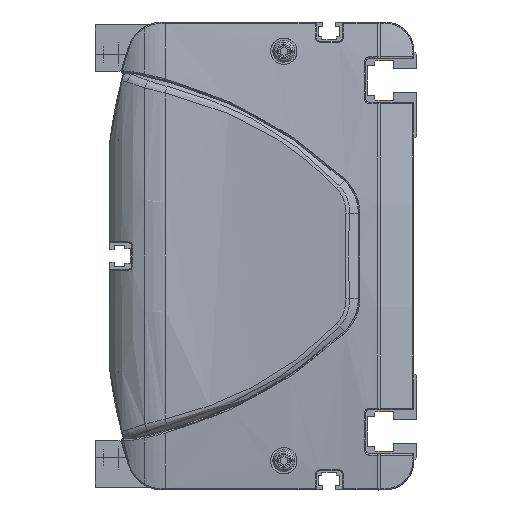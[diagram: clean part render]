
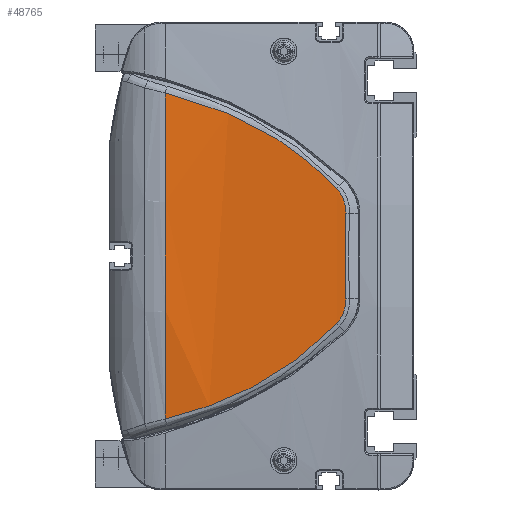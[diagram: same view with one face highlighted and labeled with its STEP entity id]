
A CAD part, left-side view. The second image highlights one B-rep face of the part: STEP entity #48765.
In plain terms, the highlighted cylindrical face has radius 600 mm (diameter 1200 mm), a partial arc.
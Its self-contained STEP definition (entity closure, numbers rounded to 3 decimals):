
#43795=CARTESIAN_POINT('',(-12.406,86.,
55.736));
#43796=CARTESIAN_POINT('',(-12.529,80.495,
54.41));
#43797=CARTESIAN_POINT('',(-12.828,69.636,
51.114));
#43798=CARTESIAN_POINT('',(-13.389,54.079,
44.179));
#43799=CARTESIAN_POINT('',(-14.01,39.709,
34.979));
#43800=CARTESIAN_POINT('',(-14.395,31.353,
27.243));
#43801=CARTESIAN_POINT('',(-14.555,27.451,
23.113));
#43803=CARTESIAN_POINT('',(-14.555,27.451,
23.113));
#43804=CARTESIAN_POINT('',(-14.641,25.336,
20.875));
#43805=CARTESIAN_POINT('',(-14.745,24.202,
17.745));
#43806=CARTESIAN_POINT('',(-14.821,24.351,
14.67));
#43808=CARTESIAN_POINT('',(-14.821,24.351,
14.67));
#43809=CARTESIAN_POINT('',(-14.9,24.51,
11.413));
#43810=CARTESIAN_POINT('',(-15.007,24.721,
4.895));
#43811=CARTESIAN_POINT('',(-15.007,24.721,
-4.895));
#43812=CARTESIAN_POINT('',(-14.9,24.51,
-11.413));
#43813=CARTESIAN_POINT('',(-14.821,24.351,
-14.67));
#43815=CARTESIAN_POINT('',(-14.821,24.351,
-14.67));
#43816=CARTESIAN_POINT('',(-14.745,24.202,
-17.745));
#43817=CARTESIAN_POINT('',(-14.641,25.337,
-20.876));
#43818=CARTESIAN_POINT('',(-14.555,27.451,
-23.113));
#43820=CARTESIAN_POINT('',(-14.555,27.451,
-23.113));
#43821=CARTESIAN_POINT('',(-14.395,31.353,
-27.243));
#43822=CARTESIAN_POINT('',(-14.01,39.709,
-34.979));
#43823=CARTESIAN_POINT('',(-13.389,54.079,
-44.179));
#43824=CARTESIAN_POINT('',(-12.828,69.636,
-51.114));
#43825=CARTESIAN_POINT('',(-12.529,80.495,
-54.41));
#43826=CARTESIAN_POINT('',(-12.406,86.,
-55.736));
#43828=CARTESIAN_POINT('',(585.,86.,0.));
#43829=DIRECTION('',(0.,1.,0.));
#43830=DIRECTION('',(-0.996,0.,-0.093));
#43831=AXIS2_PLACEMENT_3D('',#43828,#43829,#43830);
#43844=CARTESIAN_POINT('',(-12.406,86.,
55.736));
#44351=VERTEX_POINT('',#43844);
#44352=CARTESIAN_POINT('',(-12.406,86.,
-55.736));
#44353=VERTEX_POINT('',#44352);
#44405=VERTEX_POINT('',#43801);
#44406=VERTEX_POINT('',#43806);
#44407=VERTEX_POINT('',#43813);
#44408=VERTEX_POINT('',#43818);
#48747=CARTESIAN_POINT('',(585.,87.45,0.));
#48748=DIRECTION('',(0.,-1.,0.));
#48749=DIRECTION('',(0.,0.,-1.));
#48750=AXIS2_PLACEMENT_3D('',#48747,#48748,#48749);
#48751=CYLINDRICAL_SURFACE('',#48750,600.);
#48753=ORIENTED_EDGE('',*,*,#48752,.T.);
#48755=ORIENTED_EDGE('',*,*,#48754,.T.);
#48756=ORIENTED_EDGE('',*,*,#48737,.T.);
#48758=ORIENTED_EDGE('',*,*,#48757,.T.);
#48760=ORIENTED_EDGE('',*,*,#48759,.T.);
#48762=ORIENTED_EDGE('',*,*,#48761,.T.);
#48763=EDGE_LOOP('',(#48753,#48755,#48756,#48758,#48760,#48762));
#48764=FACE_OUTER_BOUND('',#48763,.F.);
#48765=ADVANCED_FACE('',(#48764),#48751,.T.);
#43802=B_SPLINE_CURVE_WITH_KNOTS('',3,(#43795,#43796,#43797,#43798,#43799,
#43800,#43801),.UNSPECIFIED.,.F.,.F.,(4,1,1,1,4),(0.,0.25,0.5,0.75,
1.),.UNSPECIFIED.);
#43807=B_SPLINE_CURVE_WITH_KNOTS('',3,(#43803,#43804,#43805,#43806),
.UNSPECIFIED.,.F.,.F.,(4,4),(0.,1.),.UNSPECIFIED.);
#43814=B_SPLINE_CURVE_WITH_KNOTS('',3,(#43808,#43809,#43810,#43811,#43812,
#43813),.UNSPECIFIED.,.F.,.F.,(4,1,1,4),(0.,0.333,
0.667,1.),.UNSPECIFIED.);
#43819=B_SPLINE_CURVE_WITH_KNOTS('',3,(#43815,#43816,#43817,#43818),
.UNSPECIFIED.,.F.,.F.,(4,4),(0.,1.),.UNSPECIFIED.);
#43827=B_SPLINE_CURVE_WITH_KNOTS('',3,(#43820,#43821,#43822,#43823,#43824,
#43825,#43826),.UNSPECIFIED.,.F.,.F.,(4,1,1,1,4),(0.,0.25,0.5,0.75,
1.),.UNSPECIFIED.);
#43832=CIRCLE('',#43831,600.);
#48737=EDGE_CURVE('',#44406,#44407,#43814,.T.);
#48752=EDGE_CURVE('',#44351,#44405,#43802,.T.);
#48754=EDGE_CURVE('',#44405,#44406,#43807,.T.);
#48757=EDGE_CURVE('',#44407,#44408,#43819,.T.);
#48759=EDGE_CURVE('',#44408,#44353,#43827,.T.);
#48761=EDGE_CURVE('',#44353,#44351,#43832,.T.);
